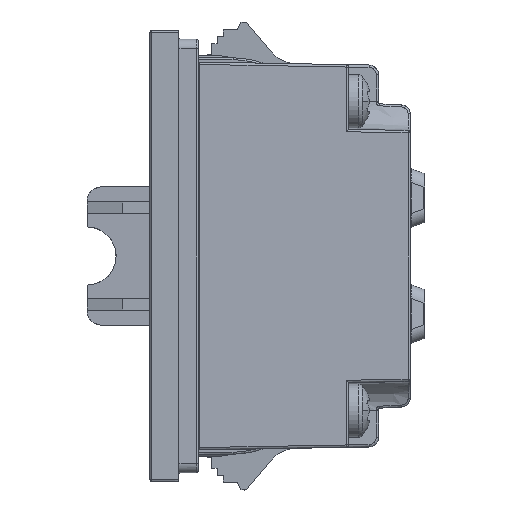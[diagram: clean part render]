
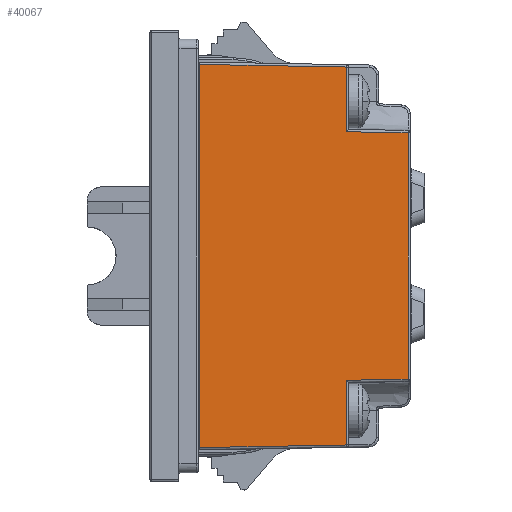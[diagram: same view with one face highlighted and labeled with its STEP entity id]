
A CAD part, left-side view. The second image highlights one B-rep face of the part: STEP entity #40067.
In plain terms, the highlighted planar face has unit normal (-1, -0.009, 0).
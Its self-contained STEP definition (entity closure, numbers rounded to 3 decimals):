
#137 = EDGE_CURVE ( 'NONE', #61233, #12608, #6499, .T. ) ;
#705 = VECTOR ( 'NONE', #88234, 1000. ) ;
#3228 = CARTESIAN_POINT ( 'NONE',  ( -12.293, -23.702, -12.742 ) ) ;
#4456 = VERTEX_POINT ( 'NONE', #25623 ) ;
#4495 = VERTEX_POINT ( 'NONE', #91254 ) ;
#5527 = EDGE_CURVE ( 'NONE', #90561, #43137, #12548, .T. ) ;
#6499 = LINE ( 'NONE', #35444, #14709 ) ;
#7308 = LINE ( 'NONE', #36258, #61347 ) ;
#12548 = LINE ( 'NONE', #63394, #26789 ) ;
#12608 = VERTEX_POINT ( 'NONE', #42949 ) ;
#12909 = CARTESIAN_POINT ( 'NONE',  ( -12.5, 0., -20.1 ) ) ;
#13949 = VECTOR ( 'NONE', #57048, 1000. ) ;
#14709 = VECTOR ( 'NONE', #64462, 1000. ) ;
#15950 = LINE ( 'NONE', #44913, #81795 ) ;
#17391 = CARTESIAN_POINT ( 'NONE',  ( -12.494, -0.697, 19.838 ) ) ;
#19040 = EDGE_CURVE ( 'NONE', #89665, #4456, #93207, .T. ) ;
#21107 = CARTESIAN_POINT ( 'NONE',  ( -12.481, -2.15, -19.812 ) ) ;
#21214 = CARTESIAN_POINT ( 'NONE',  ( -12.349, -17.351, 12.853 ) ) ;
#21485 = CARTESIAN_POINT ( 'NONE',  ( -12.349, -17.351, -19.547 ) ) ;
#23717 = LINE ( 'NONE', #52707, #53522 ) ;
#25623 = CARTESIAN_POINT ( 'NONE',  ( -12.349, -17.351, 19.547 ) ) ;
#26789 = VECTOR ( 'NONE', #92397, 1000. ) ;
#28051 = CARTESIAN_POINT ( 'NONE',  ( -12.349, -17.351, 19.545 ) ) ;
#30195 = LINE ( 'NONE', #59203, #705 ) ;
#30323 = ORIENTED_EDGE ( 'NONE', *, *, #88979, .T. ) ;
#31822 = AXIS2_PLACEMENT_3D ( 'NONE', #12909, #41866, #70906 ) ;
#35444 = CARTESIAN_POINT ( 'NONE',  ( -12.481, -2.15, -20.1 ) ) ;
#36258 = CARTESIAN_POINT ( 'NONE',  ( -12.293, -23.702, 12.987 ) ) ;
#40067 = ADVANCED_FACE ( 'NONE', ( #49012 ), #78028, .T. ) ;
#41866 = DIRECTION ( 'NONE',  ( -1., -0.009, 0. ) ) ;
#42949 = CARTESIAN_POINT ( 'NONE',  ( -12.481, -2.15, 19.812 ) ) ;
#43137 = VERTEX_POINT ( 'NONE', #3228 ) ;
#44913 = CARTESIAN_POINT ( 'NONE',  ( -12.495, -0.58, 13.145 ) ) ;
#46351 = DIRECTION ( 'NONE',  ( -0.009, 1., 0.017 ) ) ;
#49012 = FACE_OUTER_BOUND ( 'NONE', #84322, .T. ) ;
#52589 = ORIENTED_EDGE ( 'NONE', *, *, #93905, .T. ) ;
#52707 = CARTESIAN_POINT ( 'NONE',  ( -12.5, 0.004, -19.85 ) ) ;
#53522 = VECTOR ( 'NONE', #81731, 1000. ) ;
#54929 = ORIENTED_EDGE ( 'NONE', *, *, #5527, .T. ) ;
#57048 = DIRECTION ( 'NONE',  ( 0., 0., 1. ) ) ;
#58394 = ORIENTED_EDGE ( 'NONE', *, *, #71688, .T. ) ;
#59203 = CARTESIAN_POINT ( 'NONE',  ( -12.349, -17.351, -20.1 ) ) ;
#61233 = VERTEX_POINT ( 'NONE', #21107 ) ;
#61347 = VECTOR ( 'NONE', #65291, 1000. ) ;
#63394 = CARTESIAN_POINT ( 'NONE',  ( -12.501, 0.121, -13.158 ) ) ;
#64462 = DIRECTION ( 'NONE',  ( 0., 0., 1. ) ) ;
#65291 = DIRECTION ( 'NONE',  ( 0., 0., 1. ) ) ;
#66482 = ORIENTED_EDGE ( 'NONE', *, *, #89775, .T. ) ;
#67079 = CARTESIAN_POINT ( 'NONE',  ( -12.349, -17.351, -12.853 ) ) ;
#67613 = ORIENTED_EDGE ( 'NONE', *, *, #86460, .T. ) ;
#70906 = DIRECTION ( 'NONE',  ( 0.009, -1., 0. ) ) ;
#71688 = EDGE_CURVE ( 'NONE', #4456, #12608, #82517, .T. ) ;
#73940 = DIRECTION ( 'NONE',  ( -0.009, 1., 0.017 ) ) ;
#77684 = VERTEX_POINT ( 'NONE', #21485 ) ;
#78027 = ORIENTED_EDGE ( 'NONE', *, *, #137, .F. ) ;
#78028 = PLANE ( 'NONE',  #31822 ) ;
#81571 = ORIENTED_EDGE ( 'NONE', *, *, #19040, .T. ) ;
#81731 = DIRECTION ( 'NONE',  ( 0.009, -1., 0.017 ) ) ;
#81795 = VECTOR ( 'NONE', #73940, 1000. ) ;
#82517 = LINE ( 'NONE', #17391, #88644 ) ;
#84322 = EDGE_LOOP ( 'NONE', ( #67613, #66482, #54929, #30323, #52589, #81571, #58394, #78027 ) ) ;
#86460 = EDGE_CURVE ( 'NONE', #61233, #77684, #23717, .T. ) ;
#88234 = DIRECTION ( 'NONE',  ( 0., 0., 1. ) ) ;
#88644 = VECTOR ( 'NONE', #46351, 1000. ) ;
#88979 = EDGE_CURVE ( 'NONE', #43137, #4495, #7308, .T. ) ;
#89665 = VERTEX_POINT ( 'NONE', #21214 ) ;
#89775 = EDGE_CURVE ( 'NONE', #77684, #90561, #30195, .T. ) ;
#90561 = VERTEX_POINT ( 'NONE', #67079 ) ;
#91254 = CARTESIAN_POINT ( 'NONE',  ( -12.293, -23.702, 12.742 ) ) ;
#92397 = DIRECTION ( 'NONE',  ( 0.009, -1., 0.017 ) ) ;
#93207 = LINE ( 'NONE', #28051, #13949 ) ;
#93905 = EDGE_CURVE ( 'NONE', #4495, #89665, #15950, .T. ) ;
